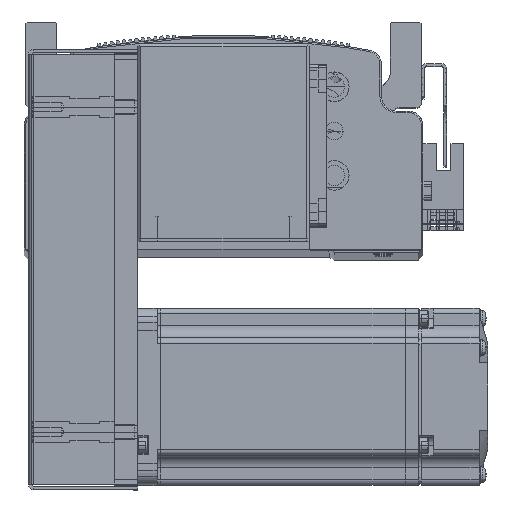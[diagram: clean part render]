
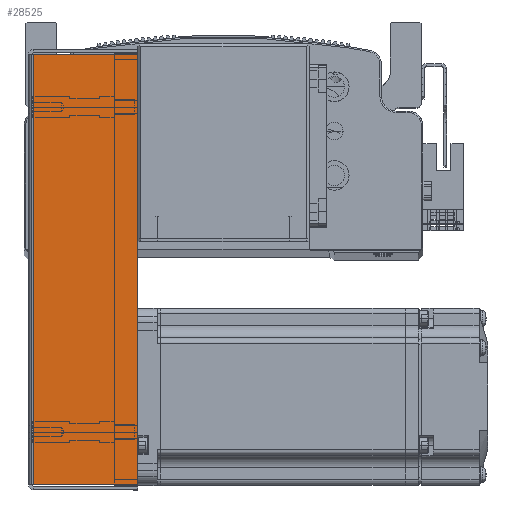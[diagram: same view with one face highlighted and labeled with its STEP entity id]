
A CAD part, top view. The second image highlights one B-rep face of the part: STEP entity #28525.
In plain terms, the highlighted planar face has unit normal (0, 0, 1) as drawn and (0, 0, -1) by its records, which use the part's own axes.
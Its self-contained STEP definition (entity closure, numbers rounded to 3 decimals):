
#4416 = CARTESIAN_POINT ( 'NONE',  ( 72.793, 0.737, -34.5 ) ) ;
#4496 = CARTESIAN_POINT ( 'NONE',  ( -72.793, 0.737, -34.5 ) ) ;
#4526 = CARTESIAN_POINT ( 'NONE',  ( -72.793, 36., -34.5 ) ) ;
#4540 = CARTESIAN_POINT ( 'NONE',  ( 72.793, 36., -34.5 ) ) ;
#16448 = CARTESIAN_POINT ( 'NONE',  ( 74.5, 0.737, -34.5 ) ) ;
#16454 = DIRECTION ( 'NONE',  ( 1., 0., 0. ) ) ;
#16811 = CARTESIAN_POINT ( 'NONE',  ( -72.793, 0., -34.5 ) ) ;
#16818 = DIRECTION ( 'NONE',  ( 0., 1., 0. ) ) ;
#16823 = CARTESIAN_POINT ( 'NONE',  ( 0., 36., -34.5 ) ) ;
#16834 = CARTESIAN_POINT ( 'NONE',  ( 72.793, 0., -34.5 ) ) ;
#16836 = DIRECTION ( 'NONE',  ( 1., 0., 0. ) ) ;
#16870 = DIRECTION ( 'NONE',  ( 0., 1., 0. ) ) ;
#25606 = EDGE_CURVE ( 'NONE', #73229, #73202, #59312, .T. ) ;
#25688 = EDGE_CURVE ( 'NONE', #73253, #73240, #73820, .T. ) ;
#25690 = EDGE_CURVE ( 'NONE', #73229, #73253, #73832, .T. ) ;
#25691 = EDGE_CURVE ( 'NONE', #73202, #73240, #73805, .T. ) ;
#28525 = ADVANCED_FACE ( 'NONE', ( #74781 ), #50216, .F. ) ;
#36561 = EDGE_LOOP ( 'NONE', ( #69834, #69856, #69841, #69898 ) ) ;
#50216 = PLANE ( 'NONE',  #52629 ) ;
#50218 = DIRECTION ( 'NONE',  ( 0., 0., 1. ) ) ;
#50225 = DIRECTION ( 'NONE',  ( 0., -1., 0. ) ) ;
#50241 = CARTESIAN_POINT ( 'NONE',  ( 0., 0., -34.5 ) ) ;
#52629 = AXIS2_PLACEMENT_3D ( 'NONE', #50241, #50218, #50225 ) ;
#59312 = LINE ( 'NONE', #16448, #59322 ) ;
#59322 = VECTOR ( 'NONE', #16454, 1000. ) ;
#69834 = ORIENTED_EDGE ( 'NONE', *, *, #25606, .F. ) ;
#69841 = ORIENTED_EDGE ( 'NONE', *, *, #25688, .T. ) ;
#69856 = ORIENTED_EDGE ( 'NONE', *, *, #25690, .T. ) ;
#69898 = ORIENTED_EDGE ( 'NONE', *, *, #25691, .F. ) ;
#73202 = VERTEX_POINT ( 'NONE', #4416 ) ;
#73229 = VERTEX_POINT ( 'NONE', #4496 ) ;
#73240 = VERTEX_POINT ( 'NONE', #4540 ) ;
#73253 = VERTEX_POINT ( 'NONE', #4526 ) ;
#73797 = VECTOR ( 'NONE', #16818, 1000. ) ;
#73801 = VECTOR ( 'NONE', #16836, 1000. ) ;
#73805 = LINE ( 'NONE', #16834, #73847 ) ;
#73820 = LINE ( 'NONE', #16823, #73801 ) ;
#73832 = LINE ( 'NONE', #16811, #73797 ) ;
#73847 = VECTOR ( 'NONE', #16870, 1000. ) ;
#74781 = FACE_OUTER_BOUND ( 'NONE', #36561, .T. ) ;
